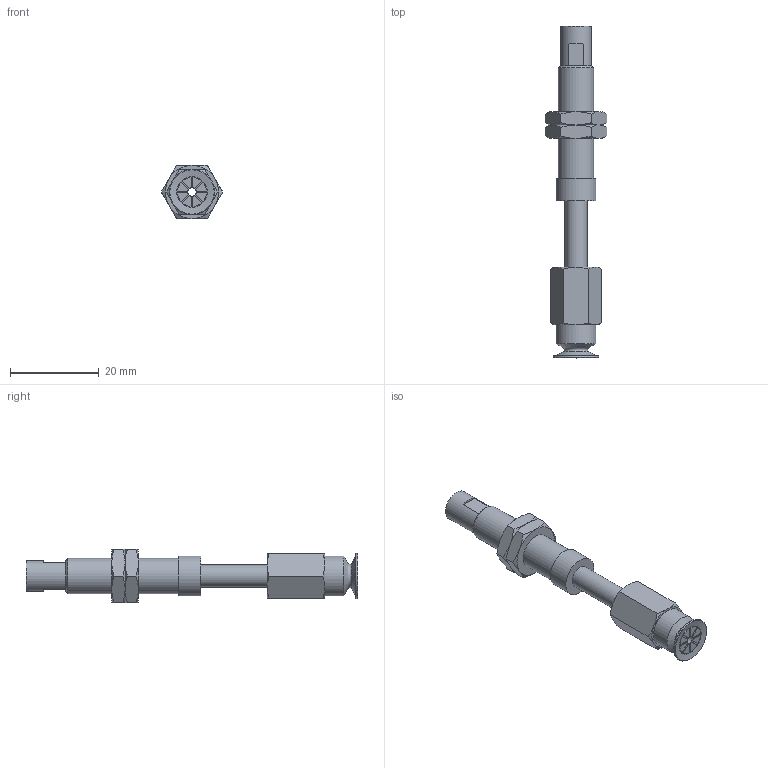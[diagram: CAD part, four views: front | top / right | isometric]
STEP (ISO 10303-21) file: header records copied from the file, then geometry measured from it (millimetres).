
FILE_DESCRIPTION(('STEP AP203'),'1');
FILE_NAME('.stp','2025-08-26T08:43:43',(' '),(' '),'Spatial InterOp 3D',' ',' ');
FILE_SCHEMA(('CONFIG_CONTROL_DESIGN'));
Length unit declared in the file: millimetre
Products named in the file (6): BNABPATS-10B-15-※; ADAPTER; NAPATS-10A-15--M; NAPATS-10A-15--F; Nut-10A-S; BPAG-10B-※_3D
Assembly tree (6 placements, depth 2):
  BNABPATS-10B-15-※
    ADAPTER
    NAPATS-10A-15--M
    NAPATS-10A-15--F
    Nut-10A-S  x2
    BPAG-10B-※_3D
Bounding box: 13.86 x 75 x 12 mm (x, y, z)
Volume: 3957.2 mm3; surface area: 4685.8 mm2
Topology: 6 solids, 6 shells, 147 faces, 334 edges, 206 vertices
Faces by surface type: plane 65, cone 46, cylinder 25, torus 11
Full cylindrical faces by diameter (mm): 2 x3, 4 x2, 4.134 x1, 5 x2, 6 x2, 7 x2, 7.188 x2, 8 x1, 9 x2
Entity records: 3762 total; most frequent: CARTESIAN_POINT 831, DIRECTION 564, ORIENTED_EDGE 484, EDGE_CURVE 242, AXIS2_PLACEMENT_3D 239, EDGE_LOOP 176, VERTEX_POINT 170, FACE_OUTER_BOUND 151
